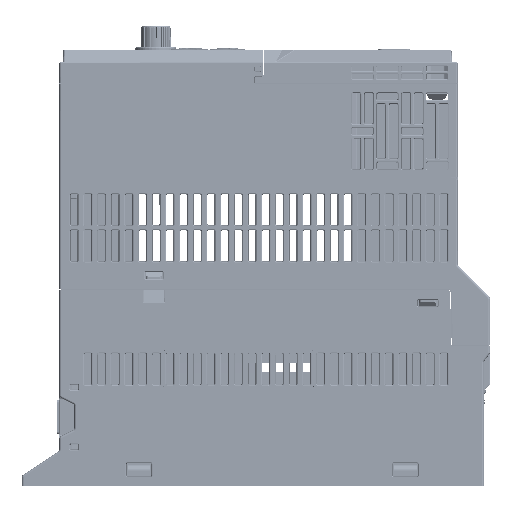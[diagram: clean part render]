
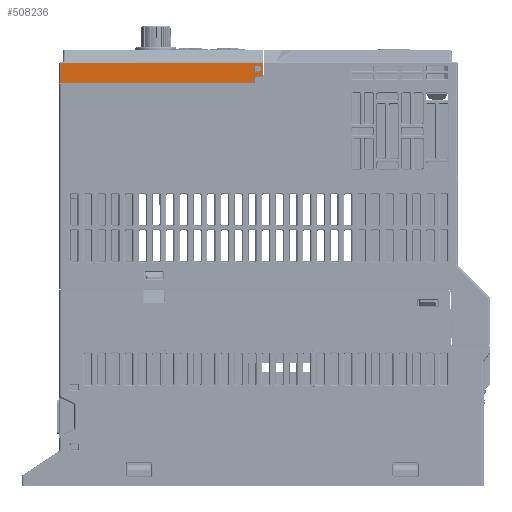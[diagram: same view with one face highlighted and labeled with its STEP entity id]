
A CAD part, left-side view. The second image highlights one B-rep face of the part: STEP entity #508236.
In plain terms, the highlighted planar face has unit normal (-1, 0, 0).
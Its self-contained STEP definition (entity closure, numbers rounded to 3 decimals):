
#429023=CARTESIAN_POINT('',(-36.,-81.953,44.7));
#452822=DIRECTION('',(0.,1.,0.));
#452823=VECTOR('',#452822,2.115);
#452824=CARTESIAN_POINT('',(-36.,-80.99,39.422));
#452825=LINE('',#452824,#452823);
#452829=DIRECTION('',(0.,0.,-1.));
#452830=VECTOR('',#452829,2.274);
#452831=CARTESIAN_POINT('',(-36.,-78.378,38.924));
#452832=LINE('',#452831,#452830);
#452836=DIRECTION('',(0.,-1.,0.));
#452837=VECTOR('',#452836,77.578);
#452838=CARTESIAN_POINT('',(-36.,-0.8,36.65));
#452839=LINE('',#452838,#452837);
#452843=DIRECTION('',(0.,0.,-1.));
#452844=VECTOR('',#452843,8.05);
#452845=CARTESIAN_POINT('',(-36.,-0.8,44.7));
#452846=LINE('',#452845,#452844);
#452850=DIRECTION('',(0.,1.,0.));
#452851=VECTOR('',#452850,81.153);
#452852=CARTESIAN_POINT('',(-36.,-81.953,44.7));
#452853=LINE('',#452852,#452851);
#452857=DIRECTION('',(0.,-0.009,-1.));
#452858=VECTOR('',#452857,4.265);
#452859=CARTESIAN_POINT('',(-36.,-81.953,44.7));
#452860=LINE('',#452859,#452858);
#452864=CARTESIAN_POINT('',(-36.,-80.99,39.422));
#452865=CARTESIAN_POINT('',(-36.,-81.327,39.422));
#452866=CARTESIAN_POINT('',(-36.,-81.741,39.68));
#452867=CARTESIAN_POINT('',(-36.,-81.993,40.098));
#452868=CARTESIAN_POINT('',(-36.,-81.99,40.435));
#452873=DIRECTION('',(0.,-1.,0.));
#452874=VECTOR('',#452873,1.749);
#452875=CARTESIAN_POINT('',(-36.,-78.876,41.178));
#452876=LINE('',#452875,#452874);
#452880=DIRECTION('',(0.,0.,1.));
#452881=VECTOR('',#452880,1.449);
#452882=CARTESIAN_POINT('',(-36.,-81.122,41.676));
#452883=LINE('',#452882,#452881);
#452887=DIRECTION('',(0.,1.,0.));
#452888=VECTOR('',#452887,1.749);
#452889=CARTESIAN_POINT('',(-36.,-80.624,43.622));
#452890=LINE('',#452889,#452888);
#452894=DIRECTION('',(0.,0.,-1.));
#452895=VECTOR('',#452894,1.449);
#452896=CARTESIAN_POINT('',(-36.,-78.378,43.124));
#452897=LINE('',#452896,#452895);
#454689=CARTESIAN_POINT('',(-36.,-78.378,38.924));
#454690=CARTESIAN_POINT('',(-36.,-78.378,39.09));
#454691=CARTESIAN_POINT('',(-36.,-78.503,39.297));
#454692=CARTESIAN_POINT('',(-36.,-78.71,39.422));
#454693=CARTESIAN_POINT('',(-36.,-78.876,39.422));
#454806=CARTESIAN_POINT('',(-36.,-0.8,36.65));
#462844=CARTESIAN_POINT('',(-36.,-81.122,41.676));
#462845=CARTESIAN_POINT('',(-36.,-81.122,41.51));
#462846=CARTESIAN_POINT('',(-36.,-80.997,41.303));
#462847=CARTESIAN_POINT('',(-36.,-80.79,41.178));
#462848=CARTESIAN_POINT('',(-36.,-80.624,41.178));
#462917=CARTESIAN_POINT('',(-36.,-80.624,43.622));
#462918=CARTESIAN_POINT('',(-36.,-80.79,43.622));
#462919=CARTESIAN_POINT('',(-36.,-80.997,43.497));
#462920=CARTESIAN_POINT('',(-36.,-81.122,43.29));
#462921=CARTESIAN_POINT('',(-36.,-81.122,43.124));
#462940=CARTESIAN_POINT('',(-36.,-78.378,43.124));
#462941=CARTESIAN_POINT('',(-36.,-78.378,43.29));
#462942=CARTESIAN_POINT('',(-36.,-78.503,43.497));
#462943=CARTESIAN_POINT('',(-36.,-78.71,43.622));
#462944=CARTESIAN_POINT('',(-36.,-78.876,43.622));
#462963=CARTESIAN_POINT('',(-36.,-78.876,41.178));
#462964=CARTESIAN_POINT('',(-36.,-78.71,41.178));
#462965=CARTESIAN_POINT('',(-36.,-78.503,41.303));
#462966=CARTESIAN_POINT('',(-36.,-78.378,41.51));
#462967=CARTESIAN_POINT('',(-36.,-78.378,41.676));
#472802=VERTEX_POINT('',#429023);
#472803=CARTESIAN_POINT('',(-36.,-0.8,44.7));
#472804=VERTEX_POINT('',#472803);
#472859=CARTESIAN_POINT('',(-36.,-80.99,39.422));
#472861=VERTEX_POINT('',#472859);
#472863=VERTEX_POINT('',#452868);
#472868=CARTESIAN_POINT('',(-36.,-80.624,43.622));
#472869=VERTEX_POINT('',#472868);
#472870=CARTESIAN_POINT('',(-36.,-81.122,43.124));
#472871=VERTEX_POINT('',#472870);
#472874=CARTESIAN_POINT('',(-36.,-81.122,41.676));
#472875=VERTEX_POINT('',#472874);
#472876=CARTESIAN_POINT('',(-36.,-80.624,41.178));
#472877=VERTEX_POINT('',#472876);
#472880=CARTESIAN_POINT('',(-36.,-78.876,41.178));
#472881=VERTEX_POINT('',#472880);
#472882=CARTESIAN_POINT('',(-36.,-78.378,41.676));
#472883=VERTEX_POINT('',#472882);
#472886=CARTESIAN_POINT('',(-36.,-78.378,43.124));
#472887=VERTEX_POINT('',#472886);
#472888=CARTESIAN_POINT('',(-36.,-78.876,43.622));
#472889=VERTEX_POINT('',#472888);
#472894=CARTESIAN_POINT('',(-36.,-78.378,36.65));
#472895=VERTEX_POINT('',#472894);
#472898=CARTESIAN_POINT('',(-36.,-78.378,38.924));
#472899=VERTEX_POINT('',#472898);
#472900=CARTESIAN_POINT('',(-36.,-78.876,39.422));
#472901=VERTEX_POINT('',#472900);
#473833=VERTEX_POINT('',#454806);
#508198=CARTESIAN_POINT('',(-36.,0.,0.));
#508199=DIRECTION('',(-1.,0.,0.));
#508200=DIRECTION('',(0.,-1.,0.));
#508201=AXIS2_PLACEMENT_3D('',#508198,#508199,#508200);
#508202=PLANE('',#508201);
#508204=ORIENTED_EDGE('',*,*,#508203,.T.);
#508206=ORIENTED_EDGE('',*,*,#508205,.F.);
#508208=ORIENTED_EDGE('',*,*,#508207,.T.);
#508210=ORIENTED_EDGE('',*,*,#508209,.F.);
#508211=ORIENTED_EDGE('',*,*,#478294,.F.);
#508212=ORIENTED_EDGE('',*,*,#478339,.F.);
#508213=ORIENTED_EDGE('',*,*,#478383,.T.);
#508215=ORIENTED_EDGE('',*,*,#508214,.F.);
#508216=EDGE_LOOP('',(#508204,#508206,#508208,#508210,#508211,#508212,#508213,
#508215));
#508217=FACE_OUTER_BOUND('',#508216,.F.);
#508219=ORIENTED_EDGE('',*,*,#508218,.T.);
#508221=ORIENTED_EDGE('',*,*,#508220,.F.);
#508223=ORIENTED_EDGE('',*,*,#508222,.T.);
#508225=ORIENTED_EDGE('',*,*,#508224,.F.);
#508227=ORIENTED_EDGE('',*,*,#508226,.T.);
#508229=ORIENTED_EDGE('',*,*,#508228,.F.);
#508231=ORIENTED_EDGE('',*,*,#508230,.T.);
#508233=ORIENTED_EDGE('',*,*,#508232,.F.);
#508234=EDGE_LOOP('',(#508219,#508221,#508223,#508225,#508227,#508229,#508231,
#508233));
#508235=FACE_BOUND('',#508234,.F.);
#508236=ADVANCED_FACE('',(#508217,#508235),#508202,.T.);
#452869=B_SPLINE_CURVE_WITH_KNOTS('',3,(#452864,#452865,#452866,#452867,
#452868),.UNSPECIFIED.,.F.,.F.,(4,1,4),(0.,0.5,1.),.UNSPECIFIED.);
#454694=B_SPLINE_CURVE_WITH_KNOTS('',3,(#454689,#454690,#454691,#454692,
#454693),.UNSPECIFIED.,.F.,.F.,(4,1,4),(0.,0.5,1.),.UNSPECIFIED.);
#462849=B_SPLINE_CURVE_WITH_KNOTS('',3,(#462844,#462845,#462846,#462847,
#462848),.UNSPECIFIED.,.F.,.F.,(4,1,4),(0.,0.5,1.),.UNSPECIFIED.);
#462922=B_SPLINE_CURVE_WITH_KNOTS('',3,(#462917,#462918,#462919,#462920,
#462921),.UNSPECIFIED.,.F.,.F.,(4,1,4),(0.,0.5,1.),.UNSPECIFIED.);
#462945=B_SPLINE_CURVE_WITH_KNOTS('',3,(#462940,#462941,#462942,#462943,
#462944),.UNSPECIFIED.,.F.,.F.,(4,1,4),(0.,0.5,1.),.UNSPECIFIED.);
#462968=B_SPLINE_CURVE_WITH_KNOTS('',3,(#462963,#462964,#462965,#462966,
#462967),.UNSPECIFIED.,.F.,.F.,(4,1,4),(0.,0.5,1.),.UNSPECIFIED.);
#478294=EDGE_CURVE('',#472804,#473833,#452846,.T.);
#478339=EDGE_CURVE('',#472802,#472804,#452853,.T.);
#478383=EDGE_CURVE('',#472802,#472863,#452860,.T.);
#508203=EDGE_CURVE('',#472861,#472901,#452825,.T.);
#508205=EDGE_CURVE('',#472899,#472901,#454694,.T.);
#508207=EDGE_CURVE('',#472899,#472895,#452832,.T.);
#508209=EDGE_CURVE('',#473833,#472895,#452839,.T.);
#508214=EDGE_CURVE('',#472861,#472863,#452869,.T.);
#508218=EDGE_CURVE('',#472881,#472877,#452876,.T.);
#508220=EDGE_CURVE('',#472875,#472877,#462849,.T.);
#508222=EDGE_CURVE('',#472875,#472871,#452883,.T.);
#508224=EDGE_CURVE('',#472869,#472871,#462922,.T.);
#508226=EDGE_CURVE('',#472869,#472889,#452890,.T.);
#508228=EDGE_CURVE('',#472887,#472889,#462945,.T.);
#508230=EDGE_CURVE('',#472887,#472883,#452897,.T.);
#508232=EDGE_CURVE('',#472881,#472883,#462968,.T.);
